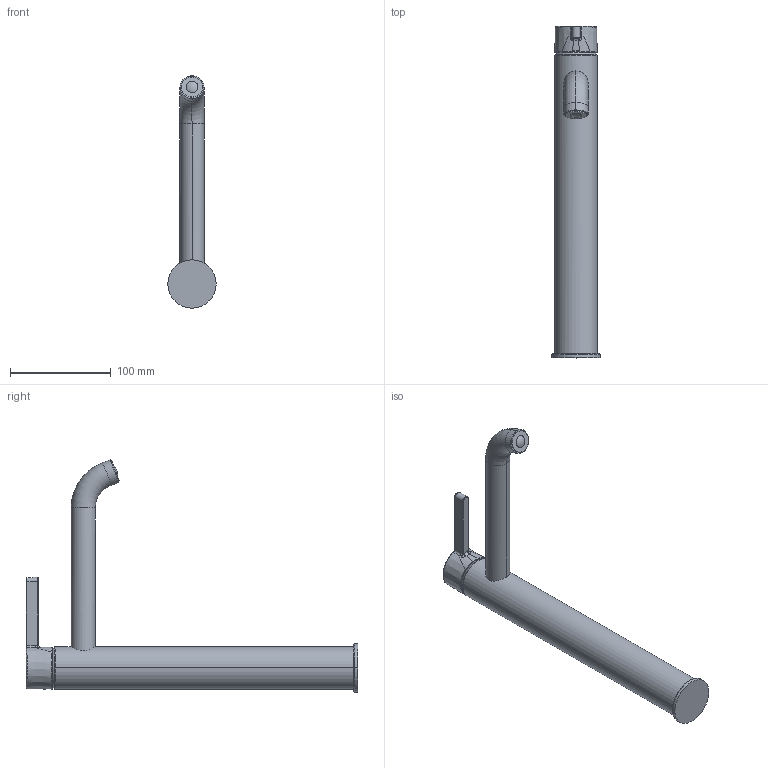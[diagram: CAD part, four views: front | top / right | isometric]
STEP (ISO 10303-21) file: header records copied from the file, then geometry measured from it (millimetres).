
FILE_DESCRIPTION((''),'2;1');
FILE_NAME('12421093','2018-10-02T',('DB991'),(''),'CREO PARAMETRIC BY PTC INC, 2016260','CREO PARAMETRIC BY PTC INC, 2016260','');
FILE_SCHEMA(('CONFIG_CONTROL_DESIGN'));
Length unit declared in the file: millimetre
Products named in the file (1): 12421093
Bounding box: 48 x 330 x 230.98 mm (x, y, z)
Volume: 551083.2 mm3; surface area: 65264.9 mm2
Topology: 1 solids, 2 shells, 86 faces, 236 edges, 156 vertices
Faces by surface type: cylinder 25, torus 23, bspline 17, plane 10, cone 7, sphere 4
Entity records: 4284 total; most frequent: CARTESIAN_POINT 2125, ORIENTED_EDGE 466, DIRECTION 440, EDGE_CURVE 233, AXIS2_PLACEMENT_3D 201, VERTEX_POINT 156, CIRCLE 132, EDGE_LOOP 93
